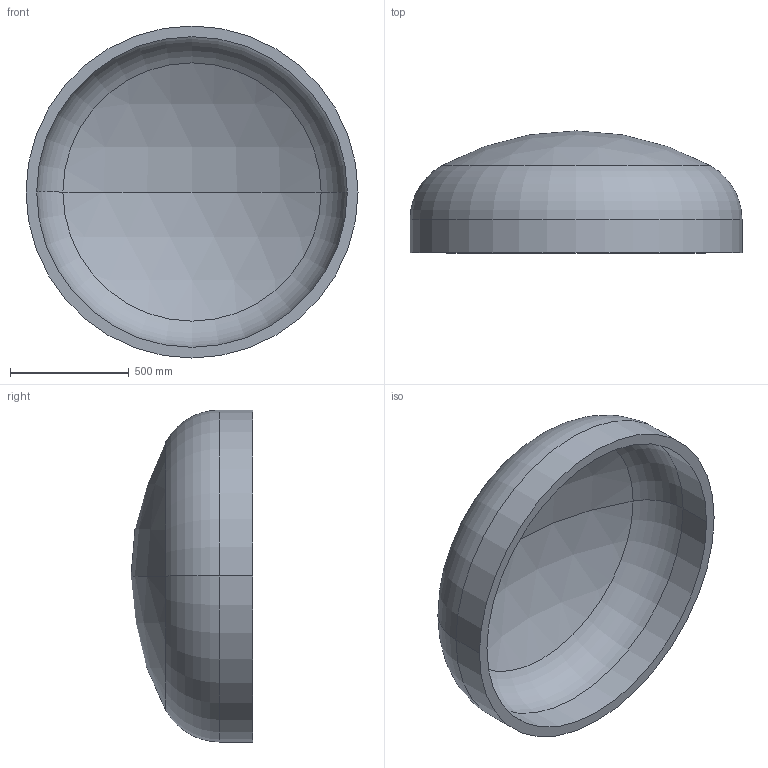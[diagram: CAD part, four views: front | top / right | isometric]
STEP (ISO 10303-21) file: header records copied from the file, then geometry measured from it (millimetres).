
FILE_DESCRIPTION (( 'STEP AP203' ), '1' );
FILE_NAME ('DIN 28013 Korbbogenform_-_Boden DIN 28013 - 1400 x 140 - I - s=45.step', '2016-07-01T10:19:05', ( '' ), ( '' ), 'SwSTEP 2.0', 'SolidWorks 2013', '' );
FILE_SCHEMA (( 'CONFIG_CONTROL_DESIGN' ));
Length unit declared in the file: millimetre
Products named in the file (1): DIN 28013 Korbbogenform_-_Boden DIN 28013 - 1400 x 140 - I - s=45
Bounding box: 1400 x 514.16 x 1400 mm (x, y, z)
Volume: 118769014.6 mm3; surface area: 5474421.2 mm2
Topology: 1 solids, 1 shells, 13 faces, 24 edges, 14 vertices
Faces by surface type: torus 4, cylinder 4, sphere 4, plane 1
Entity records: 407 total; most frequent: DIRECTION 72, CARTESIAN_POINT 52, ORIENTED_EDGE 48, AXIS2_PLACEMENT_3D 34, EDGE_CURVE 24, CIRCLE 20, EDGE_LOOP 14, VERTEX_POINT 14
